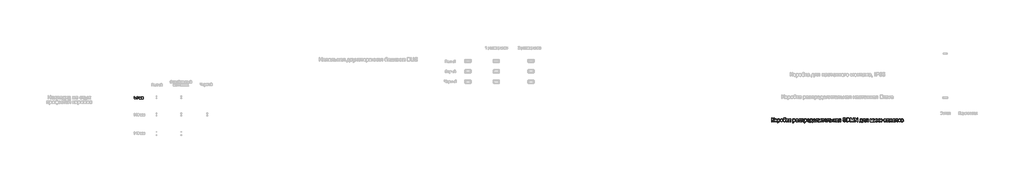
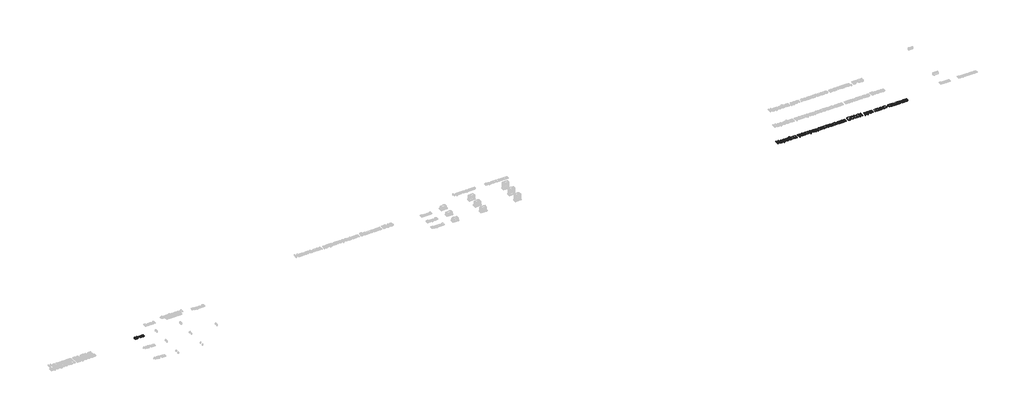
# One storey, part 14 of 48: 2 proxies.
"""IFC4 building model written with IfcOpenShell, lengths in millimetres."""

from ifc_helpers import new_model, si_unit, origin, origin_with_axes, place, context, project, spatial, polyline, outline, extrude, element, save

model = new_model("IFC4")

# Units and contexts
model_context = context("Model", 3, world=origin())
ifc_project = project(units=[si_unit("LENGTHUNIT", "METRE", prefix="MILLI")], contexts=[model_context])

# Site, building, storey
site = spatial("IfcSite", under=ifc_project)
building = spatial("IfcBuilding", under=site)
storey = spatial("IfcBuildingStorey", under=building, Name="Этаж 01", Elevation=0.0)

# Proxies
placement = place(None, origin())
element("IfcBuildingElementProxy", 1, Name="150 мм Arial", ObjectType="150 мм Arial", at=placement, inside=storey, context=model_context, shape_type="SweptSolid", body=[
    extrude(outline(polyline([(37679.5807463, -1242.0370065), (37698.4163044, -1242.0370065), (37698.4163044, -1307.96146), (37711.1680141, -1306.7152598), (37719.4775486, -1302.976659), (37734.1744344, -1277.7583482), (37744.5671007, -1256.697104), (37756.3393246, -1246.2676494), (37773.1699258, -1242.0370065), (37785.5307609, -1242.2577357), (37785.5307609, -1261.0932938), (37781.3736943, -1260.9829292), (37777.2166278, -1260.8725646), (37762.501348, -1265.3975132), (37751.3177353, -1284.7848943), (37737.982013, -1308.4029184), (37724.9773845, -1316.2020167), (37739.5179203, -1324.7184849), (37753.8561211, -1342.4687912), (37785.5307609, -1392.7214717), (37763.6785704, -1392.7214717), (37736.8967611, -1350.2678895), (37718.0428089, -1328.1029993), (37709.3378012, -1323.5918463), (37698.4163044, -1322.0881286), (37698.4163044, -1392.7214717), (37679.5807463, -1392.7214717), (37679.5807463, -1242.0370065)])), origin_with_axes(), (0.0, 0.0, 1.0), 20.0),
    extrude(outline(polyline([(37794.94854, -1337.3920196), (37799.0228331, -1310.7113779), (37811.2457123, -1291.9585932), (37826.3472682, -1282.7707404), (37844.4286683, -1279.7081228), (37864.2161211, -1283.4375265), (37880.0212513, -1294.6257377), (37890.381728, -1312.3898395), (37893.8352203, -1335.8469153), (37892.30851, -1354.8756115), (37887.7283791, -1369.360965), (37880.228185, -1380.2088854), (37869.9412847, -1388.3252819), (37857.7230039, -1393.3882578), (37844.4286683, -1395.0759165), (37824.4020922, -1391.3603083), (37808.6153561, -1380.2134839), (37798.365244, -1362.0769015), (37794.94854, -1337.3920196)]), holes=[polyline([(37813.7840981, -1337.3552314), (37815.9637989, -1354.4019634), (37822.5029014, -1366.5466678), (37832.3437448, -1373.8169357), (37844.4286683, -1376.2403583), (37856.4584095, -1373.8031401), (37866.2808588, -1366.4914855), (37872.8199613, -1354.1858327), (37874.9996621, -1336.7666202), (37872.8061657, -1320.216529), (37866.2256765, -1308.2373715), (37856.3894317, -1300.9671036), (37844.4286683, -1298.5436809), (37832.3437448, -1300.9579065), (37822.5029014, -1308.2005833), (37815.9637989, -1320.3176965), (37813.7840981, -1337.3552314)])]), origin_with_axes(), (0.0, 0.0, 1.0), 20.0),
    extrude(outline(polyline([(37915.0252232, -1435.1014776), (37915.0252232, -1282.0625676), (37933.8607813, -1282.0625676), (37933.8607813, -1300.5302437), (37946.883804, -1284.913653), (37964.4685633, -1279.7081228), (37977.2064774, -1281.5291387), (37988.3441048, -1286.9921863), (37997.412396, -1295.7661719), (38003.9423014, -1307.5200016), (38009.2030139, -1336.5458911), (38007.7176904, -1352.6545239), (38003.2617197, -1367.0617026), (37995.9776562, -1379.0362615), (37986.0080541, -1387.8470353), (37974.3967787, -1393.2686962), (37962.187695, -1395.0759165), (37945.7985521, -1390.2382682), (37933.8607813, -1378.0061919), (37933.8607813, -1435.1014776), (37915.0252232, -1435.1014776)]), holes=[polyline([(37933.8607813, -1338.2749364), (37935.8979279, -1355.16072), (37942.0093675, -1366.9697321), (37951.0270749, -1373.9227018), (37961.7830248, -1376.2403583), (37972.7137185, -1373.8399283), (37981.9613522, -1366.6386383), (37988.2659299, -1354.3973649), (37990.3674558, -1336.8769848), (37988.3165137, -1320.0831718), (37982.1636873, -1308.1086128), (37973.1597755, -1300.9349139), (37962.555577, -1298.5436809), (37951.9099917, -1301.0866652), (37942.5611905, -1308.7156181), (37936.0358836, -1321.1914163), (37933.8607813, -1338.2749364)])]), origin_with_axes(), (0.0, 0.0, 1.0), 20.0),
    extrude(outline(polyline([(38025.6841273, -1337.3920196), (38029.7584204, -1310.7113779), (38041.9812997, -1291.9585932), (38057.0828556, -1282.7707404), (38075.1642557, -1279.7081228), (38094.9517085, -1283.4375265), (38110.7568387, -1294.6257377), (38121.1173154, -1312.3898395), (38124.5708076, -1335.8469153), (38123.0440974, -1354.8756115), (38118.4639665, -1369.360965), (38110.9637723, -1380.2088854), (38100.676872, -1388.3252819), (38088.4585913, -1393.3882578), (38075.1642557, -1395.0759165), (38055.1376796, -1391.3603083), (38039.3509435, -1380.2134839), (38029.1008314, -1362.0769015), (38025.6841273, -1337.3920196)]), holes=[polyline([(38044.5196855, -1337.3552314), (38046.6993863, -1354.4019634), (38053.2384888, -1366.5466678), (38063.0793321, -1373.8169357), (38075.1642557, -1376.2403583), (38087.1939969, -1373.8031401), (38097.0164462, -1366.4914855), (38103.5555487, -1354.1858327), (38105.7352495, -1336.7666202), (38103.5417531, -1320.216529), (38096.9612639, -1308.2373715), (38087.125019, -1300.9671036), (38075.1642557, -1298.5436809), (38063.0793321, -1300.9579065), (38053.2384888, -1308.2005833), (38046.6993863, -1320.3176965), (38044.5196855, -1337.3552314)])]), origin_with_axes(), (0.0, 0.0, 1.0), 20.0),
    extrude(outline(polyline([(38223.4574879, -1239.6825617), (38239.9386013, -1239.6825617), (38235.082559, -1254.3794474), (38225.4808389, -1259.6953423), (38202.4146378, -1260.8725646), (38171.3470033, -1265.2135722), (38164.2192897, -1270.8605608), (38159.4276267, -1279.1195116), (38155.3993188, -1303.7308171), (38171.7148853, -1285.7045993), (38181.6339036, -1281.2072419), (38192.7393413, -1279.7081228), (38212.3382546, -1283.5203), (38228.2399539, -1294.9568315), (38238.779773, -1312.8956773), (38242.2930461, -1336.2147973), (38240.5502051, -1354.1950298), (38235.3216823, -1368.625201), (38218.7853866, -1388.1781291), (38207.4914093, -1393.3514696), (38192.7393413, -1395.0759165), (38175.7385946, -1392.8548289), (38162.996082, -1386.1915663), (38153.6196897, -1376.0656144), (38146.7173037, -1363.456459), (38142.4682667, -1344.4691495), (38141.051921, -1315.2087353), (38144.6249749, -1279.0689278), (38155.3441365, -1257.0281978), (38173.4761204, -1245.7848043), (38199.2876409, -1242.0370065), (38220.2569146, -1241.6139422), (38223.4574879, -1239.6825617)]), holes=[polyline([(38223.4574879, -1335.6261861), (38221.4157429, -1320.8051402), (38215.2905076, -1308.9363473), (38205.4496643, -1301.1418475), (38192.2610947, -1298.5436809), (38178.5115052, -1301.2890003), (38168.3119769, -1309.5249585), (38161.9936036, -1322.3502446), (38159.8874792, -1338.8635476), (38162.2143328, -1354.8710129), (38169.1948936, -1366.6202442), (38179.58756, -1373.8353298), (38192.1507301, -1376.2403583), (38204.7782796, -1373.4582507), (38214.7754729, -1365.111928), (38221.2869842, -1352.1762773), (38223.4574879, -1335.6261861)])]), origin_with_axes(), (0.0, 0.0, 1.0), 20.0),
    extrude(outline(polyline([(38265.8374938, -1282.0625676), (38284.6730519, -1282.0625676), (38284.6730519, -1329.1514629), (38297.2914044, -1325.7669486), (38307.6288884, -1306.0484737), (38316.218933, -1289.0339314), (38323.7973021, -1283.4973073), (38337.5744828, -1282.0625676), (38341.1797264, -1282.0625676), (38341.1797264, -1301.0084903), (38336.1029549, -1300.8981257), (38326.905905, -1302.8846885), (38320.4311819, -1315.2823117), (38312.8344187, -1328.6916105), (38302.1842349, -1335.2583041), (38314.0668233, -1342.5883528), (38325.7286826, -1358.0301996), (38345.8886159, -1392.7214717), (38324.4778838, -1392.7214717), (38304.7226207, -1358.7659636), (38294.7898068, -1344.4001716), (38284.6730519, -1340.9236868), (38284.6730519, -1392.7214717), (38265.8374938, -1392.7214717), (38265.8374938, -1282.0625676)])), origin_with_axes(), (0.0, 0.0, 1.0), 20.0),
    extrude(outline(polyline([(38428.2941829, -1378.5948031), (38410.0288418, -1391.3603083), (38389.8505144, -1395.0759165), (38374.1097635, -1392.8410334), (38362.498488, -1386.136384), (38355.3385847, -1375.9552498), (38352.9519502, -1363.2909121), (38356.5571938, -1348.3916913), (38366.0301552, -1337.5759606), (38379.2187247, -1331.3955431), (38395.5158971, -1328.5628518), (38428.1838183, -1322.0881286), (38428.2941829, -1317.8942739), (38426.9973988, -1309.4881703), (38423.1070467, -1303.9883345), (38414.4066375, -1299.9048443), (38402.2849258, -1298.5436809), (38383.2286384, -1302.1673186), (38374.1419532, -1315.0247943), (38355.306395, -1312.6703496), (38363.4549812, -1294.2762498), (38379.8625182, -1283.4973073), (38404.712947, -1279.7081228), (38427.5400248, -1283.055849), (38440.4342887, -1291.4619525), (38446.210036, -1304.2458519), (38447.129741, -1320.7269653), (38447.129741, -1344.1610484), (38448.0862342, -1376.8841518), (38451.8386305, -1392.7214717), (38433.0030724, -1392.7214717), (38428.2941829, -1378.5948031)]), holes=[polyline([(38428.2941829, -1340.9236868), (38397.90713, -1346.6994341), (38381.7019282, -1349.7528547), (38374.3626824, -1354.7192616), (38371.7875084, -1361.9665369), (38377.3977088, -1372.1568682), (38393.8604281, -1376.2403583), (38412.9167155, -1371.7338039), (38425.2039741, -1360.8261027), (38428.1838183, -1346.2579757), (38428.2941829, -1340.9236868)])]), origin_with_axes(), (0.0, 0.0, 1.0), 20.0),
    extrude(outline(polyline([(38531.8897527, -1435.1014776), (38531.8897527, -1282.0625676), (38550.7253108, -1282.0625676), (38550.7253108, -1300.5302437), (38563.7483335, -1284.913653), (38581.3330928, -1279.7081228), (38594.0710069, -1281.5291387), (38605.2086343, -1286.9921863), (38614.2769255, -1295.7661719), (38620.8068309, -1307.5200016), (38626.0675435, -1336.5458911), (38624.5822199, -1352.6545239), (38620.1262492, -1367.0617026), (38612.8421857, -1379.0362615), (38602.8725837, -1387.8470353), (38591.2613082, -1393.2686962), (38579.0522245, -1395.0759165), (38562.6630816, -1390.2382682), (38550.7253108, -1378.0061919), (38550.7253108, -1435.1014776), (38531.8897527, -1435.1014776)]), holes=[polyline([(38550.7253108, -1338.2749364), (38552.7624574, -1355.16072), (38558.873897, -1366.9697321), (38567.8916044, -1373.9227018), (38578.6475543, -1376.2403583), (38589.5782481, -1373.8399283), (38598.8258817, -1366.6386383), (38605.1304594, -1354.3973649), (38607.2319853, -1336.8769848), (38605.1810432, -1320.0831718), (38599.0282168, -1308.1086128), (38590.024305, -1300.9349139), (38579.4201065, -1298.5436809), (38568.7745212, -1301.0866652), (38559.42572, -1308.7156181), (38552.9004131, -1321.1914163), (38550.7253108, -1338.2749364)])]), origin_with_axes(), (0.0, 0.0, 1.0), 20.0),
    extrude(outline(polyline([(38717.8908895, -1378.5948031), (38699.6255484, -1391.3603083), (38679.447221, -1395.0759165), (38663.7064701, -1392.8410334), (38652.0951946, -1386.136384), (38644.9352913, -1375.9552498), (38642.5486568, -1363.2909121), (38646.1539004, -1348.3916913), (38655.6268618, -1337.5759606), (38668.8154313, -1331.3955431), (38685.1126037, -1328.5628518), (38717.7805249, -1322.0881286), (38717.8908895, -1317.8942739), (38716.5941054, -1309.4881703), (38712.7037533, -1303.9883345), (38704.0033441, -1299.9048443), (38691.8816324, -1298.5436809), (38672.825345, -1302.1673186), (38663.7386598, -1315.0247943), (38644.9031016, -1312.6703496), (38653.0516878, -1294.2762498), (38669.4592248, -1283.4973073), (38694.3096536, -1279.7081228), (38717.1367314, -1283.055849), (38730.0309953, -1291.4619525), (38735.8067426, -1304.2458519), (38736.7264476, -1320.7269653), (38736.7264476, -1344.1610484), (38737.6829408, -1376.8841518), (38741.4353371, -1392.7214717), (38722.599779, -1392.7214717), (38717.8908895, -1378.5948031)]), holes=[polyline([(38717.8908895, -1340.9236868), (38687.5038367, -1346.6994341), (38671.2986348, -1349.7528547), (38663.959389, -1354.7192616), (38661.384215, -1361.9665369), (38666.9944154, -1372.1568682), (38683.4571347, -1376.2403583), (38702.5134221, -1371.7338039), (38714.8006807, -1360.8261027), (38717.7805249, -1346.2579757), (38717.8908895, -1340.9236868)])]), origin_with_axes(), (0.0, 0.0, 1.0), 20.0),
    extrude(outline(polyline([(38833.2586831, -1352.6959106), (38852.0942413, -1355.0503554), (38846.8427258, -1371.8027818), (38836.9742913, -1384.4625209), (38823.4178398, -1392.4225676), (38807.1022733, -1395.0759165), (38787.0665001, -1391.3741039), (38771.3993257, -1380.2686662), (38761.2871693, -1362.2470469), (38757.9164505, -1337.7966898), (38759.3557888, -1321.0350664), (38763.6738038, -1306.5083261), (38770.9394732, -1294.777489), (38781.2217749, -1286.4035751), (38793.5228291, -1281.3819859), (38806.8447559, -1279.7081228), (38822.7602507, -1282.0073853), (38835.4843692, -1288.9051727), (38844.6124412, -1300.033603), (38849.7397965, -1315.0247943), (38830.9042384, -1317.3792391), (38822.167041, -1303.2709646), (38806.9919087, -1298.5436809), (38794.8196132, -1300.8705346), (38785.1581123, -1307.8510954), (38778.8535346, -1319.8624426), (38776.7520087, -1337.281655), (38778.8075493, -1354.9353923), (38784.9741713, -1366.9881262), (38794.4609282, -1373.9273003), (38806.4768739, -1376.2403583), (38816.2303453, -1374.7964215), (38824.2271802, -1370.464611), (38830.0443142, -1363.1345623), (38833.2586831, -1352.6959106)])), origin_with_axes(), (0.0, 0.0, 1.0), 20.0),
    extrude(outline(polyline([(38868.5753547, -1282.0625676), (38953.3353664, -1282.0625676), (38953.3353664, -1392.7214717), (38934.4998082, -1392.7214717), (38934.4998082, -1300.8981257), (38887.4109128, -1300.8981257), (38887.4109128, -1392.7214717), (38868.5753547, -1392.7214717), (38868.5753547, -1282.0625676)])), origin_with_axes(), (0.0, 0.0, 1.0), 20.0),
    extrude(outline(polyline([(38981.5887036, -1435.1014776), (38981.5887036, -1282.0625676), (39000.4242618, -1282.0625676), (39000.4242618, -1300.5302437), (39013.4472844, -1284.913653), (39031.0320437, -1279.7081228), (39043.7699578, -1281.5291387), (39054.9075852, -1286.9921863), (39063.9758764, -1295.7661719), (39070.5057818, -1307.5200016), (39075.7664944, -1336.5458911), (39074.2811708, -1352.6545239), (39069.8252001, -1367.0617026), (39062.5411366, -1379.0362615), (39052.5715346, -1387.8470353), (39040.9602591, -1393.2686962), (39028.7511754, -1395.0759165), (39012.3620325, -1390.2382682), (39000.4242618, -1378.0061919), (39000.4242618, -1435.1014776), (38981.5887036, -1435.1014776)]), holes=[polyline([(39000.4242618, -1338.2749364), (39002.4614083, -1355.16072), (39008.5728479, -1366.9697321), (39017.5905554, -1373.9227018), (39028.3465052, -1376.2403583), (39039.277199, -1373.8399283), (39048.5248326, -1366.6386383), (39054.8294103, -1354.3973649), (39056.9309362, -1336.8769848), (39054.8799941, -1320.0831718), (39048.7271677, -1308.1086128), (39039.7232559, -1300.9349139), (39029.1190574, -1298.5436809), (39018.4734721, -1301.0866652), (39009.1246709, -1308.7156181), (39002.599364, -1321.1914163), (39000.4242618, -1338.2749364)])]), origin_with_axes(), (0.0, 0.0, 1.0), 20.0),
    extrude(outline(polyline([(39174.4324455, -1359.7592449), (39192.9001216, -1362.1136897), (39186.246056, -1376.0288262), (39175.628062, -1386.4306896), (39161.2852627, -1392.9146098), (39143.4567815, -1395.0759165), (39121.3562706, -1391.3465128), (39104.3509254, -1380.1583016), (39093.5076036, -1362.2378499), (39089.893163, -1338.3117246), (39093.5443918, -1313.5808575), (39104.4980782, -1295.0855902), (39121.2734972, -1283.5524896), (39142.3899237, -1279.7081228), (39162.8487611, -1283.5432926), (39179.1965173, -1295.048802), (39189.9156789, -1313.5072811), (39193.4887328, -1338.20136), (39193.3783682, -1343.2781316), (39108.7287211, -1343.2781316), (39111.9890753, -1357.377209), (39119.5628459, -1367.7422842), (39130.4935397, -1374.1158398), (39143.8246635, -1376.2403583), (39162.2923396, -1372.304021), (39174.4324455, -1359.7592449)]), holes=[polyline([(39108.7287211, -1324.4425734), (39174.6531747, -1324.4425734), (39172.1055918, -1314.4913654), (39167.1115938, -1307.3728488), (39156.1303162, -1300.7509729), (39142.3163473, -1298.5436809), (39129.6198199, -1300.304916), (39119.1213875, -1305.5886212), (39111.8235284, -1313.8245793), (39108.7287211, -1324.4425734)])]), origin_with_axes(), (0.0, 0.0, 1.0), 20.0),
    extrude(outline(polyline([(39228.8054044, -1282.0625676), (39299.4387474, -1282.0625676), (39299.4387474, -1373.8859136), (39313.565416, -1373.8859136), (39313.565416, -1423.3292537), (39294.7298579, -1423.3292537), (39294.7298579, -1392.7214717), (39217.0331805, -1392.7214717), (39217.0331805, -1423.3292537), (39198.1976224, -1423.3292537), (39198.1976224, -1373.8859136), (39209.9698462, -1373.8859136), (39218.5277011, -1358.4210742), (39224.5195791, -1337.9622367), (39228.8054044, -1282.0625676)]), holes=[polyline([(39245.2865177, -1300.8981257), (39240.8719338, -1343.8115605), (39231.1598491, -1373.8859136), (39280.6031893, -1373.8859136), (39280.6031893, -1300.8981257), (39245.2865177, -1300.8981257)])]), origin_with_axes(), (0.0, 0.0, 1.0), 20.0),
    extrude(outline(polyline([(39412.2313672, -1359.7592449), (39430.6990433, -1362.1136897), (39424.0449777, -1376.0288262), (39413.4269836, -1386.4306896), (39399.0841843, -1392.9146098), (39381.2557032, -1395.0759165), (39359.1551923, -1391.3465128), (39342.1498471, -1380.1583016), (39331.3065253, -1362.2378499), (39327.6920847, -1338.3117246), (39331.3433135, -1313.5808575), (39342.2969999, -1295.0855902), (39359.0724188, -1283.5524896), (39380.1888454, -1279.7081228), (39400.6476828, -1283.5432926), (39416.995439, -1295.048802), (39427.7146006, -1313.5072811), (39431.2876545, -1338.20136), (39431.1772899, -1343.2781316), (39346.5276428, -1343.2781316), (39349.787997, -1357.377209), (39357.3617676, -1367.7422842), (39368.2924614, -1374.1158398), (39381.6235852, -1376.2403583), (39400.0912613, -1372.304021), (39412.2313672, -1359.7592449)]), holes=[polyline([(39346.5276428, -1324.4425734), (39412.4520963, -1324.4425734), (39409.9045135, -1314.4913654), (39404.9105154, -1307.3728488), (39393.9292379, -1300.7509729), (39380.115269, -1298.5436809), (39367.4187416, -1300.304916), (39356.9203092, -1305.5886212), (39349.6224501, -1313.8245793), (39346.5276428, -1324.4425734)])]), origin_with_axes(), (0.0, 0.0, 1.0), 20.0),
    extrude(outline(polyline([(39459.5409917, -1282.0625676), (39544.3010034, -1282.0625676), (39544.3010034, -1392.6111071), (39525.4654453, -1392.6111071), (39525.4654453, -1300.8981257), (39478.3765499, -1300.8981257), (39478.3765499, -1353.689192), (39477.107357, -1378.0429801), (39470.1359932, -1388.3252819), (39453.6548798, -1392.7214717), (39438.3509888, -1391.7649785), (39438.3509888, -1373.8859136), (39446.7754865, -1373.8859136), (39455.2919547, -1372.7270853), (39458.6948631, -1369.0482653), (39459.5409917, -1352.6223342), (39459.5409917, -1282.0625676)])), origin_with_axes(), (0.0, 0.0, 1.0), 20.0),
    extrude(outline(polyline([(39572.5543406, -1282.0625676), (39591.3898988, -1282.0625676), (39591.3898988, -1366.4546973), (39637.6694538, -1282.0625676), (39662.0232419, -1282.0625676), (39662.0232419, -1392.7214717), (39643.1876837, -1392.7214717), (39643.1876837, -1308.8443768), (39597.2024343, -1392.7214717), (39572.5543406, -1392.7214717), (39572.5543406, -1282.0625676)])), origin_with_axes(), (0.0, 0.0, 1.0), 20.0),
    extrude(outline(polyline([(39680.8588, -1282.0625676), (39770.3277013, -1282.0625676), (39770.3277013, -1300.8981257), (39735.0110297, -1300.8981257), (39735.0110297, -1392.7214717), (39716.1754716, -1392.7214717), (39716.1754716, -1300.8981257), (39680.8588, -1300.8981257), (39680.8588, -1282.0625676)])), origin_with_axes(), (0.0, 0.0, 1.0), 20.0),
    extrude(outline(polyline([(39864.2847628, -1359.7592449), (39882.752439, -1362.1136897), (39876.0983734, -1376.0288262), (39865.4803793, -1386.4306896), (39851.13758, -1392.9146098), (39833.3090988, -1395.0759165), (39811.208588, -1391.3465128), (39794.2032427, -1380.1583016), (39783.3599209, -1362.2378499), (39779.7454803, -1338.3117246), (39783.3967091, -1313.5808575), (39794.3503955, -1295.0855902), (39811.1258145, -1283.5524896), (39832.242241, -1279.7081228), (39852.7010785, -1283.5432926), (39869.0488347, -1295.048802), (39879.7679963, -1313.5072811), (39883.3410502, -1338.20136), (39883.2306856, -1343.2781316), (39798.5810385, -1343.2781316), (39801.8413927, -1357.377209), (39809.4151632, -1367.7422842), (39820.345857, -1374.1158398), (39833.6769808, -1376.2403583), (39852.144657, -1372.304021), (39864.2847628, -1359.7592449)]), holes=[polyline([(39798.5810385, -1324.4425734), (39864.505492, -1324.4425734), (39861.9579092, -1314.4913654), (39856.9639111, -1307.3728488), (39845.9826336, -1300.7509729), (39832.1686646, -1298.5436809), (39819.4721373, -1300.304916), (39808.9737048, -1305.5886212), (39801.6758458, -1313.8245793), (39798.5810385, -1324.4425734)])]), origin_with_axes(), (0.0, 0.0, 1.0), 20.0),
    extrude(outline(polyline([(39911.5943874, -1282.0625676), (39996.3543991, -1282.0625676), (39996.3543991, -1392.6111071), (39977.5188409, -1392.6111071), (39977.5188409, -1300.8981257), (39930.4299456, -1300.8981257), (39930.4299456, -1353.689192), (39929.1607527, -1378.0429801), (39922.1893889, -1388.3252819), (39905.7082755, -1392.7214717), (39890.4043845, -1391.7649785), (39890.4043845, -1373.8859136), (39898.8288822, -1373.8859136), (39907.3453504, -1372.7270853), (39910.7482588, -1369.0482653), (39911.5943874, -1352.6223342), (39911.5943874, -1282.0625676)])), origin_with_axes(), (0.0, 0.0, 1.0), 20.0),
    extrude(outline(polyline([(40024.6077363, -1282.0625676), (40043.4432945, -1282.0625676), (40043.4432945, -1322.0881286), (40065.1483322, -1322.0881286), (40083.9654962, -1324.4471719), (40097.8898298, -1331.5243018), (40106.4982684, -1342.7493012), (40109.367748, -1357.551953), (40106.9259313, -1371.0302296), (40099.600481, -1382.4023817), (40086.9039537, -1390.1416992), (40068.3489055, -1392.7214717), (40024.6077363, -1392.7214717), (40024.6077363, -1282.0625676)]), holes=[polyline([(40043.4432945, -1373.8859136), (40061.0280538, -1373.8859136), (40083.744767, -1369.9311821), (40088.8353342, -1364.8682062), (40090.5321899, -1357.5887412), (40085.5106006, -1346.0004583), (40077.4401894, -1342.1928797), (40063.272134, -1340.9236868), (40043.4432945, -1340.9236868), (40043.4432945, -1373.8859136)])]), origin_with_axes(), (0.0, 0.0, 1.0), 20.0),
    extrude(outline(polyline([(40132.9121957, -1282.0625676), (40151.7477539, -1282.0625676), (40151.7477539, -1324.4425734), (40201.191094, -1324.4425734), (40201.191094, -1282.0625676), (40220.0266522, -1282.0625676), (40220.0266522, -1392.7214717), (40201.191094, -1392.7214717), (40201.191094, -1343.2781316), (40151.7477539, -1343.2781316), (40151.7477539, -1392.7214717), (40132.9121957, -1392.7214717), (40132.9121957, -1282.0625676)])), origin_with_axes(), (0.0, 0.0, 1.0), 20.0),
    extrude(outline(polyline([(40318.9133325, -1378.5948031), (40300.6479914, -1391.3603083), (40280.469664, -1395.0759165), (40264.7289131, -1392.8410334), (40253.1176376, -1386.136384), (40245.9577343, -1375.9552498), (40243.5710999, -1363.2909121), (40247.1763434, -1348.3916913), (40256.6493048, -1337.5759606), (40269.8378743, -1331.3955431), (40286.1350467, -1328.5628518), (40318.8029679, -1322.0881286), (40318.9133325, -1317.8942739), (40317.6165484, -1309.4881703), (40313.7261963, -1303.9883345), (40305.0257871, -1299.9048443), (40292.9040754, -1298.5436809), (40273.8477881, -1302.1673186), (40264.7611028, -1315.0247943), (40245.9255446, -1312.6703496), (40254.0741308, -1294.2762498), (40270.4816678, -1283.4973073), (40295.3320966, -1279.7081228), (40318.1591744, -1283.055849), (40331.0534383, -1291.4619525), (40336.8291856, -1304.2458519), (40337.7488906, -1320.7269653), (40337.7488906, -1344.1610484), (40338.7053838, -1376.8841518), (40342.4577802, -1392.7214717), (40323.622222, -1392.7214717), (40318.9133325, -1378.5948031)]), holes=[polyline([(40318.9133325, -1340.9236868), (40288.5262797, -1346.6994341), (40272.3210778, -1349.7528547), (40264.981832, -1354.7192616), (40262.406658, -1361.9665369), (40268.0168584, -1372.1568682), (40284.4795777, -1376.2403583), (40303.5358651, -1371.7338039), (40315.8231237, -1360.8261027), (40318.8029679, -1346.2579757), (40318.9133325, -1340.9236868)])]), origin_with_axes(), (0.0, 0.0, 1.0), 20.0),
    extrude(outline(polyline([(40448.4077948, -1282.0625676), (40448.4077948, -1392.7214717), (40429.5722366, -1392.7214717), (40429.5722366, -1350.3414659), (40419.3083289, -1350.3414659), (40405.3288131, -1352.7326988), (40392.1954259, -1368.809142), (40377.1858405, -1392.7214717), (40355.4072264, -1392.7214717), (40374.3163609, -1362.4815717), (40382.6672822, -1351.6290529), (40390.3560159, -1346.8097987), (40377.4801461, -1342.8642643), (40368.430249, -1335.3686687), (40363.077566, -1325.3990666), (40361.2933383, -1314.0315129), (40363.7305565, -1301.137249), (40371.0422112, -1290.9285236), (40382.9707849, -1284.2790566), (40399.2587602, -1282.0625676), (40448.4077948, -1282.0625676)]), holes=[polyline([(40429.5722366, -1300.8981257), (40404.7402019, -1300.8981257), (40391.9149159, -1301.9879761), (40384.6354509, -1305.2575274), (40380.1288965, -1315.4662527), (40381.788964, -1322.6445502), (40386.7691665, -1327.6247527), (40410.2952201, -1331.5059077), (40429.5722366, -1331.5059077), (40429.5722366, -1300.8981257)])]), origin_with_axes(), (0.0, 0.0, 1.0), 20.0),
    extrude(outline(polyline([(40530.8133617, -1340.9236868), (40549.6489198, -1340.9236868), (40555.7189728, -1359.777639), (40570.5446172, -1371.6970157), (40593.1325717, -1376.2403583), (40612.8142584, -1372.8006617), (40625.5245813, -1363.3460944), (40629.700042, -1350.7093479), (40626.573045, -1338.9555181), (40613.7707516, -1330.4022617), (40586.3451489, -1323.2101687), (40556.8226187, -1313.9211483), (40540.8013579, -1299.9048443), (40535.5222512, -1281.1796508), (40537.1547276, -1270.1477894), (40542.0521566, -1259.8608892), (40550.0857797, -1251.1420859), (40561.1268381, -1244.8145156), (40589.0490815, -1239.6825617), (40618.8475231, -1245.0536388), (40630.2702591, -1251.6847118), (40638.7131509, -1260.8357764), (40644.0566369, -1271.9366156), (40646.1811554, -1284.4170123), (40627.3455972, -1284.4170123), (40623.8875065, -1273.1782174), (40616.6770194, -1265.0664194), (40605.4106333, -1260.1551948), (40589.7848455, -1258.5181199), (40573.7911758, -1260.1368007), (40562.8190953, -1264.992843), (40556.4731308, -1272.1389507), (40554.3578094, -1280.6278278), (40555.8569285, -1287.865906), (40560.3542859, -1293.6876386), (40591.1092207, -1304.2090637), (40624.4393295, -1313.663631), (40635.1768852, -1320.497039), (40642.6678823, -1328.9307338), (40647.0686707, -1338.8727447), (40648.5356001, -1350.2311013), (40646.8479415, -1361.8423767), (40641.7849655, -1372.7638735), (40633.5536059, -1382.1632585), (40622.3607962, -1389.2081987), (40608.9009137, -1393.608987), (40593.8683357, -1395.0759165), (40575.4144551, -1393.4940239), (40560.2255272, -1388.7483462), (40548.1268081, -1380.8204892), (40538.9435538, -1369.6920588), (40533.0482448, -1356.1356073), (40530.8133617, -1340.9236868)])), origin_with_axes(), (0.0, 0.0, 1.0), 20.0),
    extrude(outline(polyline([(40676.7889374, -1392.7214717), (40676.7889374, -1242.0370065), (40728.7706633, -1242.0370065), (40755.6628371, -1244.2075103), (40777.8093332, -1254.9864527), (40788.2295908, -1266.464371), (40795.65161, -1280.7381924), (40800.0937851, -1297.5320055), (40801.5745101, -1316.5698987), (40797.5645964, -1346.9753456), (40787.2639005, -1368.9195066), (40773.5051139, -1382.5863227), (40755.4972902, -1390.1462977), (40731.2722609, -1392.7214717), (40676.7889374, -1392.7214717)]), holes=[polyline([(40695.6244955, -1373.8859136), (40728.9546043, -1373.8859136), (40753.1980278, -1371.1635868), (40767.1775436, -1363.4748531), (40778.6370677, -1344.7680536), (40782.738952, -1316.2755931), (40780.7293966, -1295.7477778), (40774.7007304, -1280.5910396), (40765.7933876, -1270.1799791), (40755.1478023, -1263.889197), (40728.4395695, -1260.8725646), (40695.6244955, -1260.8725646), (40695.6244955, -1373.8859136)])]), origin_with_axes(), (0.0, 0.0, 1.0), 20.0),
    extrude(outline(polyline([(40827.4734026, -1392.7214717), (40827.4734026, -1242.0370065), (40859.8838064, -1242.0370065), (40890.7123176, -1348.2445385), (40896.9295233, -1370.4278228), (40903.6617638, -1346.4051285), (40933.9752402, -1242.0370065), (40966.385644, -1242.0370065), (40966.385644, -1392.7214717), (40947.5500858, -1392.7214717), (40947.5500858, -1260.8725646), (40909.6950285, -1392.7214717), (40884.1640181, -1392.7214717), (40846.3089607, -1260.8725646), (40846.3089607, -1392.7214717), (40827.4734026, -1392.7214717)])), origin_with_axes(), (0.0, 0.0, 1.0), 20.0),
    extrude(outline(polyline([(40999.3478707, -1392.7214717), (40999.3478707, -1242.0370065), (41019.5078041, -1242.0370065), (41098.234551, -1361.4147139), (41098.234551, -1242.0370065), (41117.0701092, -1242.0370065), (41117.0701092, -1392.7214717), (41096.9101759, -1392.7214717), (41018.1834289, -1273.3069761), (41018.1834289, -1392.7214717), (40999.3478707, -1392.7214717)])), origin_with_axes(), (0.0, 0.0, 1.0), 20.0),
    extrude(outline(polyline([(41223.0201238, -1282.0625676), (41293.6534669, -1282.0625676), (41293.6534669, -1373.8859136), (41307.7801355, -1373.8859136), (41307.7801355, -1423.3292537), (41288.9445773, -1423.3292537), (41288.9445773, -1392.7214717), (41211.2479, -1392.7214717), (41211.2479, -1423.3292537), (41192.4123418, -1423.3292537), (41192.4123418, -1373.8859136), (41204.1845657, -1373.8859136), (41212.7424206, -1358.4210742), (41218.7342986, -1337.9622367), (41223.0201238, -1282.0625676)]), holes=[polyline([(41239.5012372, -1300.8981257), (41235.0866533, -1343.8115605), (41225.3745686, -1373.8859136), (41274.8179087, -1373.8859136), (41274.8179087, -1300.8981257), (41239.5012372, -1300.8981257)])]), origin_with_axes(), (0.0, 0.0, 1.0), 20.0),
    extrude(outline(polyline([(41338.3879175, -1282.0625676), (41423.1479292, -1282.0625676), (41423.1479292, -1392.6111071), (41404.312371, -1392.6111071), (41404.312371, -1300.8981257), (41357.2234757, -1300.8981257), (41357.2234757, -1353.689192), (41355.9542828, -1378.0429801), (41348.982919, -1388.3252819), (41332.5018056, -1392.7214717), (41317.1979146, -1391.7649785), (41317.1979146, -1373.8859136), (41325.6224123, -1373.8859136), (41334.1388805, -1372.7270853), (41337.5417889, -1369.0482653), (41338.3879175, -1352.6223342), (41338.3879175, -1282.0625676)])), origin_with_axes(), (0.0, 0.0, 1.0), 20.0),
    extrude(outline(polyline([(41536.1612781, -1282.0625676), (41536.1612781, -1392.7214717), (41517.32572, -1392.7214717), (41517.32572, -1350.3414659), (41507.0618123, -1350.3414659), (41493.0822965, -1352.7326988), (41479.9489092, -1368.809142), (41464.9393238, -1392.7214717), (41443.1607097, -1392.7214717), (41462.0698443, -1362.4815717), (41470.4207656, -1351.6290529), (41478.1094993, -1346.8097987), (41465.2336294, -1342.8642643), (41456.1837324, -1335.3686687), (41450.8310493, -1325.3990666), (41449.0468216, -1314.0315129), (41451.4840399, -1301.137249), (41458.7956945, -1290.9285236), (41470.7242682, -1284.2790566), (41487.0122435, -1282.0625676), (41536.1612781, -1282.0625676)]), holes=[polyline([(41517.32572, -1300.8981257), (41492.4936853, -1300.8981257), (41479.6683992, -1301.9879761), (41472.3889342, -1305.2575274), (41467.8823798, -1315.4662527), (41469.5424473, -1322.6445502), (41474.5226498, -1327.6247527), (41498.0487034, -1331.5059077), (41517.32572, -1331.5059077), (41517.32572, -1300.8981257)])]), origin_with_axes(), (0.0, 0.0, 1.0), 20.0),
    extrude(outline(polyline([(41623.2757346, -1282.0625676), (41655.6861383, -1282.0625676), (41680.6653258, -1370.648552), (41707.5942879, -1282.0625676), (41738.6435282, -1282.0625676), (41738.6435282, -1392.7214717), (41719.8079701, -1392.7214717), (41719.8079701, -1303.6204525), (41692.7318553, -1392.7214717), (41668.0101852, -1392.7214717), (41642.1112927, -1299.3530213), (41642.1112927, -1392.7214717), (41623.2757346, -1392.7214717), (41623.2757346, -1282.0625676)])), origin_with_axes(), (0.0, 0.0, 1.0), 20.0),
    extrude(outline(polyline([(41766.8968655, -1282.0625676), (41785.7324236, -1282.0625676), (41785.7324236, -1366.4546973), (41832.0119786, -1282.0625676), (41856.3657667, -1282.0625676), (41856.3657667, -1392.7214717), (41837.5302086, -1392.7214717), (41837.5302086, -1308.8443768), (41791.5449592, -1392.7214717), (41766.8968655, -1392.7214717), (41766.8968655, -1282.0625676)])), origin_with_axes(), (0.0, 0.0, 1.0), 20.0),
    extrude(outline(polyline([(41884.6191039, -1282.0625676), (41903.4546621, -1282.0625676), (41903.4546621, -1324.4425734), (41952.8980022, -1324.4425734), (41952.8980022, -1282.0625676), (41971.7335604, -1282.0625676), (41971.7335604, -1392.7214717), (41952.8980022, -1392.7214717), (41952.8980022, -1343.2781316), (41903.4546621, -1343.2781316), (41903.4546621, -1392.7214717), (41884.6191039, -1392.7214717), (41884.6191039, -1282.0625676)])), origin_with_axes(), (0.0, 0.0, 1.0), 20.0),
    extrude(outline(polyline([(41999.9868976, -1282.0625676), (42018.8224558, -1282.0625676), (42018.8224558, -1366.4546973), (42065.1020108, -1282.0625676), (42089.4557989, -1282.0625676), (42089.4557989, -1392.7214717), (42070.6202407, -1392.7214717), (42070.6202407, -1308.8443768), (42024.6349913, -1392.7214717), (41999.9868976, -1392.7214717), (41999.9868976, -1282.0625676)])), origin_with_axes(), (0.0, 0.0, 1.0), 20.0),
    extrude(outline(polyline([(42108.291357, -1347.9870211), (42108.291357, -1329.1514629), (42167.1524762, -1329.1514629), (42167.1524762, -1347.9870211), (42108.291357, -1347.9870211)])), origin_with_axes(), (0.0, 0.0, 1.0), 20.0),
    extrude(outline(polyline([(42188.3424792, -1282.0625676), (42207.1780373, -1282.0625676), (42207.1780373, -1329.1514629), (42219.7963897, -1325.7669486), (42230.1338738, -1306.0484737), (42238.7239184, -1289.0339314), (42246.3022875, -1283.4973073), (42260.0794682, -1282.0625676), (42263.6847118, -1282.0625676), (42263.6847118, -1301.0084903), (42258.6079402, -1300.8981257), (42249.4108904, -1302.8846885), (42242.9361672, -1315.2823117), (42235.339404, -1328.6916105), (42224.6892203, -1335.2583041), (42236.5718087, -1342.5883528), (42248.233668, -1358.0301996), (42268.3936013, -1392.7214717), (42246.9828692, -1392.7214717), (42227.227606, -1358.7659636), (42217.2947922, -1344.4001716), (42207.1780373, -1340.9236868), (42207.1780373, -1392.7214717), (42188.3424792, -1392.7214717), (42188.3424792, -1282.0625676)])), origin_with_axes(), (0.0, 0.0, 1.0), 20.0),
    extrude(outline(polyline([(42350.7991682, -1378.5948031), (42332.5338272, -1391.3603083), (42312.3554997, -1395.0759165), (42296.6147489, -1392.8410334), (42285.0034734, -1386.136384), (42277.8435701, -1375.9552498), (42275.4569356, -1363.2909121), (42279.0621792, -1348.3916913), (42288.5351405, -1337.5759606), (42301.7237101, -1331.3955431), (42318.0208825, -1328.5628518), (42350.6888036, -1322.0881286), (42350.7991682, -1317.8942739), (42349.5023842, -1309.4881703), (42345.6120321, -1303.9883345), (42336.9116229, -1299.9048443), (42324.7899112, -1298.5436809), (42305.7336238, -1302.1673186), (42296.6469385, -1315.0247943), (42277.8113804, -1312.6703496), (42285.9599666, -1294.2762498), (42302.3675036, -1283.4973073), (42327.2179323, -1279.7081228), (42350.0450101, -1283.055849), (42362.9392741, -1291.4619525), (42368.7150214, -1304.2458519), (42369.6347264, -1320.7269653), (42369.6347264, -1344.1610484), (42370.5912196, -1376.8841518), (42374.3436159, -1392.7214717), (42355.5080578, -1392.7214717), (42350.7991682, -1378.5948031)]), holes=[polyline([(42350.7991682, -1340.9236868), (42320.4121154, -1346.6994341), (42304.2069135, -1349.7528547), (42296.8676677, -1354.7192616), (42294.2924938, -1361.9665369), (42299.9026942, -1372.1568682), (42316.3654135, -1376.2403583), (42335.4217008, -1371.7338039), (42347.7089595, -1360.8261027), (42350.6888036, -1346.2579757), (42350.7991682, -1340.9236868)])]), origin_with_axes(), (0.0, 0.0, 1.0), 20.0),
    extrude(outline(polyline([(42395.5336188, -1282.0625676), (42414.369177, -1282.0625676), (42414.369177, -1324.4425734), (42463.8125171, -1324.4425734), (42463.8125171, -1282.0625676), (42482.6480753, -1282.0625676), (42482.6480753, -1392.7214717), (42463.8125171, -1392.7214717), (42463.8125171, -1343.2781316), (42414.369177, -1343.2781316), (42414.369177, -1392.7214717), (42395.5336188, -1392.7214717), (42395.5336188, -1282.0625676)])), origin_with_axes(), (0.0, 0.0, 1.0), 20.0),
    extrude(outline(polyline([(42581.5347556, -1378.5948031), (42563.2694145, -1391.3603083), (42543.0910871, -1395.0759165), (42527.3503362, -1392.8410334), (42515.7390608, -1386.136384), (42508.5791574, -1375.9552498), (42506.192523, -1363.2909121), (42509.7977665, -1348.3916913), (42519.2707279, -1337.5759606), (42532.4592974, -1331.3955431), (42548.7564698, -1328.5628518), (42581.424391, -1322.0881286), (42581.5347556, -1317.8942739), (42580.2379716, -1309.4881703), (42576.3476195, -1303.9883345), (42567.6472103, -1299.9048443), (42555.5254985, -1298.5436809), (42536.4692112, -1302.1673186), (42527.3825259, -1315.0247943), (42508.5469678, -1312.6703496), (42516.6955539, -1294.2762498), (42533.1030909, -1283.4973073), (42557.9535197, -1279.7081228), (42580.7805975, -1283.055849), (42593.6748614, -1291.4619525), (42599.4506088, -1304.2458519), (42600.3703138, -1320.7269653), (42600.3703138, -1344.1610484), (42601.3268069, -1376.8841518), (42605.0792033, -1392.7214717), (42586.2436451, -1392.7214717), (42581.5347556, -1378.5948031)]), holes=[polyline([(42581.5347556, -1340.9236868), (42551.1477028, -1346.6994341), (42534.9425009, -1349.7528547), (42527.6032551, -1354.7192616), (42525.0280811, -1361.9665369), (42530.6382816, -1372.1568682), (42547.1010009, -1376.2403583), (42566.1572882, -1371.7338039), (42578.4445468, -1360.8261027), (42581.424391, -1346.2579757), (42581.5347556, -1340.9236868)])]), origin_with_axes(), (0.0, 0.0, 1.0), 20.0),
    extrude(outline(polyline([(42635.6869853, -1282.0625676), (42720.446997, -1282.0625676), (42720.446997, -1392.6111071), (42701.6114388, -1392.6111071), (42701.6114388, -1300.8981257), (42654.5225434, -1300.8981257), (42654.5225434, -1353.689192), (42653.2533506, -1378.0429801), (42646.2819868, -1388.3252819), (42629.8008734, -1392.7214717), (42614.4969824, -1391.7649785), (42614.4969824, -1373.8859136), (42622.9214801, -1373.8859136), (42631.4379482, -1372.7270853), (42634.8408567, -1369.0482653), (42635.6869853, -1352.6223342), (42635.6869853, -1282.0625676)])), origin_with_axes(), (0.0, 0.0, 1.0), 20.0),
    extrude(outline(polyline([(42743.9914447, -1337.3920196), (42748.0657378, -1310.7113779), (42760.2886171, -1291.9585932), (42775.390173, -1282.7707404), (42793.471573, -1279.7081228), (42813.2590258, -1283.4375265), (42829.0641561, -1294.6257377), (42839.4246327, -1312.3898395), (42842.878125, -1335.8469153), (42841.3514147, -1354.8756115), (42836.7712839, -1369.360965), (42829.2710897, -1380.2088854), (42818.9841894, -1388.3252819), (42806.7659086, -1393.3882578), (42793.471573, -1395.0759165), (42773.4449969, -1391.3603083), (42757.6582608, -1380.2134839), (42747.4081487, -1362.0769015), (42743.9914447, -1337.3920196)]), holes=[polyline([(42762.8270028, -1337.3552314), (42765.0067036, -1354.4019634), (42771.5458061, -1366.5466678), (42781.3866495, -1373.8169357), (42793.471573, -1376.2403583), (42805.5013143, -1373.8031401), (42815.3237635, -1366.4914855), (42821.862866, -1354.1858327), (42824.0425668, -1336.7666202), (42821.8490704, -1320.216529), (42815.2685812, -1308.2373715), (42805.4323364, -1300.9671036), (42793.471573, -1298.5436809), (42781.3866495, -1300.9579065), (42771.5458061, -1308.2005833), (42765.0067036, -1320.3176965), (42762.8270028, -1337.3552314)])]), origin_with_axes(), (0.0, 0.0, 1.0), 20.0),
    extrude(outline(polyline([(42864.0681279, -1282.0625676), (42905.565217, -1282.0625676), (42928.3187184, -1284.5825592), (42941.1210118, -1293.8163973), (42946.4736948, -1309.9112346), (42943.2363333, -1322.9894395), (42933.4874604, -1332.3152481), (42946.142601, -1342.5239735), (42951.1825844, -1360.2742797), (42947.991208, -1374.6308746), (42940.4036419, -1384.7384324), (42928.3922948, -1390.7257119), (42911.9295755, -1392.7214717), (42864.0681279, -1392.7214717), (42864.0681279, -1282.0625676)]), holes=[polyline([(42882.903686, -1324.4425734), (42901.518515, -1324.4425734), (42916.8775883, -1323.4860802), (42924.3455928, -1319.6601075), (42927.6381367, -1312.743926), (42926.1941998, -1307.1245285), (42921.8623893, -1303.5100879), (42902.1071262, -1300.8981257), (42882.903686, -1300.8981257), (42882.903686, -1324.4425734)]), polyline([(42882.903686, -1373.8859136), (42906.0066753, -1373.8859136), (42926.4977025, -1370.4830051), (42930.7375425, -1365.8430934), (42932.3470262, -1358.7291754), (42929.1280587, -1349.6608842), (42920.7403493, -1344.3817775), (42904.1672654, -1343.2781316), (42882.903686, -1343.2781316), (42882.903686, -1373.8859136)])]), origin_with_axes(), (0.0, 0.0, 1.0), 20.0),
])
element("IfcBuildingElementProxy", 2, Name="100 мм Arial", ObjectType="100 мм Arial", at=placement, inside=storey, context=model_context, shape_type="SweptSolid", body=[
    extrude(outline(polyline([(12208.3388995, -448.8533368), (12220.8959383, -447.283707), (12226.5367955, -459.2643973), (12237.2298989, -462.9800054), (12247.3957047, -460.5887725), (12254.2873607, -454.1998885), (12258.3953763, -443.286056), (12260.2102608, -428.717929), (12260.1366844, -426.2653823), (12250.093506, -435.7812633), (12236.3224566, -439.4355577), (12224.8721295, -437.2037403), (12215.3409201, -430.508288), (12208.9121823, -420.1646726), (12206.7692697, -406.9883658), (12209.0164155, -393.376732), (12215.7578531, -382.7081541), (12225.883805, -375.8103667), (12238.2844939, -373.5111042), (12256.1758216, -378.759554), (12268.4876057, -393.7200885), (12272.6937232, -421.8262729), (12268.4998684, -452.3236903), (12263.2851412, -462.3147522), (12256.0286688, -469.6018814), (12247.0431511, -474.0532535), (12236.6412877, -475.5370442), (12225.9052648, -473.786539), (12217.3397456, -468.5350236), (12211.3494005, -460.1135916), (12208.3388995, -448.8533368)]), holes=[polyline([(12260.1366844, -406.6940602), (12258.7816524, -398.1837234), (12254.7165564, -391.6354238), (12248.4073801, -387.4599632), (12240.3201076, -386.068143), (12231.9323981, -387.5672621), (12225.2124203, -392.0646195), (12220.7978364, -398.9470785), (12219.3263084, -407.6015024), (12220.7181286, -415.3607468), (12224.8935893, -421.5197046), (12231.4480202, -425.5388154), (12239.9767511, -426.878519), (12254.459039, -421.5197046), (12258.7172731, -415.1338863), (12260.1366844, -406.6940602)])]), origin_with_axes(), (0.0, 0.0, 1.0), 20.0),
    extrude(outline(polyline([(12283.6811321, -424.5485997), (12287.3722148, -395.6453376), (12298.3350983, -378.9802832), (12316.6433589, -373.5111042), (12331.3095878, -376.7484658), (12341.4386054, -386.0804057), (12347.3247173, -400.9428383), (12349.6055856, -424.5485997), (12345.9512912, -453.3292344), (12335.0251959, -470.031077), (12326.7938363, -474.1605524), (12316.6433589, -475.5370442), (12303.5958108, -473.1458112), (12293.6875224, -465.9721123), (12286.1827297, -448.9820955), (12283.6811321, -424.5485997)]), holes=[polyline([(12296.2381709, -424.5240742), (12297.7096989, -444.2762717), (12302.1242828, -455.7082047), (12308.6971078, -461.1620552), (12316.6433589, -462.9800054), (12324.58961, -461.1559239), (12331.162435, -455.6836792), (12335.5770189, -444.2456148), (12337.0485469, -424.5240742), (12335.6260698, -405.2164008), (12331.3586387, -393.695563), (12324.7980764, -387.974998), (12316.4962061, -386.068143), (12308.6357941, -387.7481374), (12302.3204865, -392.7881208), (12297.7587498, -405.0263285), (12296.2381709, -424.5240742)])]), origin_with_axes(), (0.0, 0.0, 1.0), 20.0),
    extrude(outline(polyline([(12402.9730004, -400.1948116), (12424.5799363, -400.1948116), (12441.2327279, -459.2521346), (12459.1853693, -400.1948116), (12479.8848629, -400.1948116), (12479.8848629, -473.9674144), (12467.3278241, -473.9674144), (12467.3278241, -414.5667349), (12449.2770809, -473.9674144), (12432.7959675, -473.9674144), (12415.5300392, -411.7217808), (12415.5300392, -473.9674144), (12402.9730004, -473.9674144), (12402.9730004, -400.1948116)])), origin_with_axes(), (0.0, 0.0, 1.0), 20.0),
    extrude(outline(polyline([(12498.720421, -400.1948116), (12520.3273569, -400.1948116), (12536.9801485, -459.2521346), (12554.9327899, -400.1948116), (12575.6322835, -400.1948116), (12575.6322835, -473.9674144), (12563.0752447, -473.9674144), (12563.0752447, -414.5667349), (12545.0245015, -473.9674144), (12528.5433881, -473.9674144), (12511.2774598, -411.7217808), (12511.2774598, -473.9674144), (12498.720421, -473.9674144), (12498.720421, -400.1948116)])), origin_with_axes(), (0.0, 0.0, 1.0), 20.0),
])

save(model, "model.ifc")
